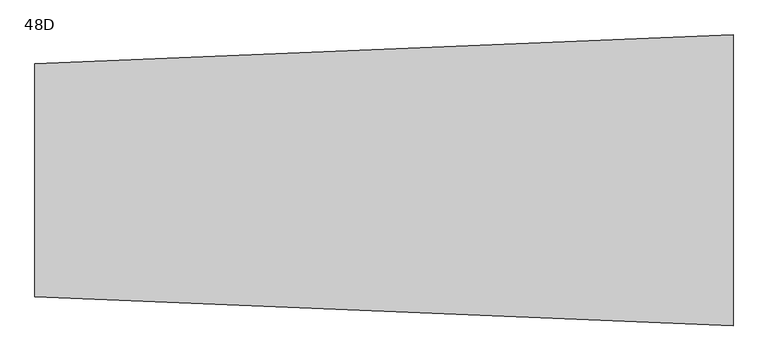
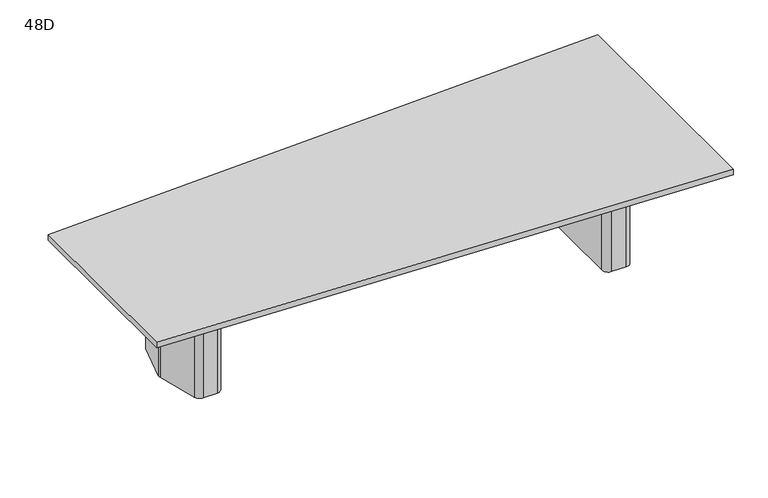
"""IFC4 building model written with IfcOpenShell, lengths in millimetres: furniture geometry, Coalesse_AM_Table_Conference_ETable2_Trapezoid_12ft_TwoBase : 48D."""

import ifcopenshell
import ifcopenshell.guid

model = None  # the IFC model being written
_history = None  # IfcOwnerHistory: only IFC2X3 demands one
_inside = {}  # id of a spatial element -> (the spatial element, [elements in it])
_under = {}  # id of a project, library or spatial element -> (it, [spatial elements below it])
_declared = {}  # id of a project -> (the project, [libraries it declares])
_typed = {}  # id of a type object -> (the type object, [elements of that type])
_made_of = {}  # id of a material, layer set ... -> (it, [elements and type objects made of it])


def new_model(schema):
    """Start an empty IFC model of exactly this schema.

    Asked for "IFC4X3", IfcOpenShell would pick the latest addendum, in which some entities
    have other attributes; the version numbers below select the first issue.
    IFC2X3 requires an IfcOwnerHistory on every rooted entity: one is made here for all.
    """
    global model, _history
    if schema == "IFC4X3":
        model = ifcopenshell.file(schema_version=(4, 3, 0, 0))
    else:
        model = ifcopenshell.file(schema=schema)
    _inside.clear()
    _under.clear()
    _declared.clear()
    _typed.clear()
    _made_of.clear()
    _history = None
    if model.schema == "IFC2X3":
        org = make("IfcOrganization", Name="unknown")
        user = make(
            "IfcPersonAndOrganization",
            ThePerson=make("IfcPerson", FamilyName="unknown"),
            TheOrganization=org,
        )
        app = make(
            "IfcApplication",
            ApplicationDeveloper=org,
            Version="unknown",
            ApplicationFullName="unknown",
            ApplicationIdentifier="unknown",
        )
        _history = make(
            "IfcOwnerHistory",
            OwningUser=user,
            OwningApplication=app,
            ChangeAction="ADDED",
            CreationDate=0,
        )
    return model


def make(cls, **values):
    """One entity of the class cls with the attributes given. An attribute that is None is left unset."""
    return model.create_entity(
        cls, **{name: value for name, value in values.items() if value is not None}
    )


def rooted(cls, **values):
    """An entity with a GlobalId (a new one), such as an element, a storey or a relation."""
    return make(cls, GlobalId=ifcopenshell.guid.new(), OwnerHistory=_history, **values)


def si_unit(unit_type, name, prefix=None):
    """IfcSIUnit, for example si_unit("LENGTHUNIT", "METRE", prefix="MILLI")."""
    return make("IfcSIUnit", UnitType=unit_type, Prefix=prefix, Name=name)


def assignment(units):
    """IfcUnitAssignment: the units of a project."""
    return None if units is None else make("IfcUnitAssignment", Units=units)


def point(xyz):
    """IfcCartesianPoint."""
    return None if xyz is None else make("IfcCartesianPoint", Coordinates=xyz)


def direction(xyz):
    """IfcDirection."""
    return None if xyz is None else make("IfcDirection", DirectionRatios=xyz)


def frame(location, z_axis=None, x_axis=None):
    """IfcAxis2Placement3D, a coordinate frame: its origin and axes. An axis left out is left unset."""
    return make(
        "IfcAxis2Placement3D",
        Location=point(location),
        Axis=direction(z_axis),
        RefDirection=direction(x_axis),
    )


def frame_2d(location, x_axis=None):
    """IfcAxis2Placement2D, a coordinate frame in the plane: its origin and x axis."""
    return make(
        "IfcAxis2Placement2D", Location=point(location), RefDirection=direction(x_axis)
    )


def origin():
    """The frame at (0, 0, 0) with its axes left unset."""
    return frame((0.0, 0.0, 0.0))


def origin_with_axes():
    """The frame at (0, 0, 0) with the z axis (0, 0, 1) and the x axis (1, 0, 0) written out."""
    return frame((0.0, 0.0, 0.0), z_axis=(0.0, 0.0, 1.0), x_axis=(1.0, 0.0, 0.0))


def place(relative_to, where):
    """IfcLocalPlacement: puts the frame where relative to a parent placement (None: the world)."""
    return make(
        "IfcLocalPlacement", PlacementRelTo=relative_to, RelativePlacement=where
    )


def context(
    kind, dimensions, precision=None, world=None, true_north=None, identifier=None
):
    """IfcGeometricRepresentationContext, for example the 3D "Model" context."""
    return make(
        "IfcGeometricRepresentationContext",
        ContextIdentifier=identifier,
        ContextType=kind,
        CoordinateSpaceDimension=dimensions,
        Precision=precision,
        WorldCoordinateSystem=world,
        TrueNorth=true_north,
    )


def project(units=None, contexts=None):
    """IfcProject with its units and contexts."""
    return rooted(
        "IfcProject",
        Name="project",
        RepresentationContexts=contexts,
        UnitsInContext=assignment(units),
    )


def spatial(cls, under=None, at=None, **own):
    """A site, building, storey or space (cls), placed at a placement, below another one or the project."""
    s = rooted(cls, ObjectPlacement=at, **own)
    if under is not None:
        _under.setdefault(under.id(), (under, []))[1].append(s)
    return s


def polyline(points):
    """IfcPolyline through the points."""
    return make("IfcPolyline", Points=[point(p) for p in points])


def circle_curve(where, radius):
    """IfcCircle in the frame where."""
    return make("IfcCircle", Position=where, Radius=radius)


def trimmed(basis, trim1, trim2, sense, master):
    """IfcTrimmedCurve: the piece of a basis curve between two trims."""
    return make(
        "IfcTrimmedCurve",
        BasisCurve=basis,
        Trim1=trim1,
        Trim2=trim2,
        SenseAgreement=sense,
        MasterRepresentation=master,
    )


def segment(curve, same_sense, transition):
    """IfcCompositeCurveSegment."""
    return make(
        "IfcCompositeCurveSegment",
        Transition=transition,
        SameSense=same_sense,
        ParentCurve=curve,
    )


def composite_curve(segments, self_intersect=None):
    """IfcCompositeCurve: segments joined end to end."""
    return make("IfcCompositeCurve", Segments=segments, SelfIntersect=self_intersect)


def outline(outer, holes=None, kind="AREA"):
    """IfcArbitraryClosedProfileDef: a profile drawn as a closed curve; with holes, ...WithVoids."""
    if holes is None:
        return make("IfcArbitraryClosedProfileDef", ProfileType=kind, OuterCurve=outer)
    return make(
        "IfcArbitraryProfileDefWithVoids",
        ProfileType=kind,
        OuterCurve=outer,
        InnerCurves=holes,
    )


def extrude(swept, where, along, depth):
    """IfcExtrudedAreaSolid: the profile swept, set in the frame where, extruded along a direction by depth."""
    return make(
        "IfcExtrudedAreaSolid",
        SweptArea=swept,
        Position=where,
        ExtrudedDirection=direction(along),
        Depth=depth,
    )


def shape(context_of_items, identifier, shape_type, items):
    """IfcShapeRepresentation: the items that make up one representation, for example the "Body"."""
    return make(
        "IfcShapeRepresentation",
        ContextOfItems=context_of_items,
        RepresentationIdentifier=identifier,
        RepresentationType=shape_type,
        Items=items,
    )


def source(mapping_origin, context_of_items, identifier, shape_type, items):
    """IfcRepresentationMap: a shape defined once, which mapped items show again and again."""
    return make(
        "IfcRepresentationMap",
        MappingOrigin=mapping_origin,
        MappedRepresentation=shape(context_of_items, identifier, shape_type, items),
    )


def transform(
    local_origin,
    x_axis=None,
    y_axis=None,
    z_axis=None,
    scale=None,
    scale2=None,
    scale3=None,
    uniform=True,
):
    """IfcCartesianTransformationOperator3D, or its non-uniform kind. x_axis, y_axis, z_axis: its Axis1, 2, 3."""
    if uniform:
        return make(
            "IfcCartesianTransformationOperator3D",
            Axis1=direction(x_axis),
            Axis2=direction(y_axis),
            LocalOrigin=point(local_origin),
            Scale=scale,
            Axis3=direction(z_axis),
        )
    return make(
        "IfcCartesianTransformationOperator3DnonUniform",
        Axis1=direction(x_axis),
        Axis2=direction(y_axis),
        LocalOrigin=point(local_origin),
        Scale=scale,
        Axis3=direction(z_axis),
        Scale2=scale2,
        Scale3=scale3,
    )


def mapped(mapping_source, mapping_target):
    """IfcMappedItem: shows the shape of a source again, moved by a transform."""
    return make(
        "IfcMappedItem", MappingSource=mapping_source, MappingTarget=mapping_target
    )


def made_of(thing, what):
    """Note that an element or type object is made of a material, layer set ...; save() writes the relation."""
    if what is not None:
        _made_of.setdefault(what.id(), (what, []))[1].append(thing)
    return thing


def element(
    cls,
    number,
    at=None,
    inside=None,
    cuts=None,
    type_object=None,
    material=None,
    context=None,
    identifier="Body",
    shape_type=None,
    held_by="IfcProductDefinitionShape",
    body=None,
    shapes=None,
    **own,
):
    """One element of the class cls, such as IfcWall. Its Tag is "e" and its number.

    at: its placement. inside: the storey or other place that contains it. cuts: it is an
    opening in that element (IfcRelVoidsElement). A single representation is given by context,
    identifier, shape_type and body (its items); several are given by shapes. held_by: the class
    of the entity that holds the representations. save() writes the other relations.
    """
    e = rooted(cls, Tag="e%d" % number, ObjectPlacement=at, **own)
    if body is not None:
        shapes = [shape(context, identifier, shape_type, body)]
    if shapes is not None:
        e.Representation = make(held_by, Representations=shapes)
    if inside is not None:
        _inside.setdefault(inside.id(), (inside, []))[1].append(e)
    if cuts is not None:
        rooted(
            "IfcRelVoidsElement", RelatingBuildingElement=cuts, RelatedOpeningElement=e
        )
    if type_object is not None:
        _typed.setdefault(type_object.id(), (type_object, []))[1].append(e)
    return made_of(e, material)


def aggregate(whole, parts):
    """IfcRelAggregates: a whole, such as a stair, and the parts it consists of."""
    return rooted("IfcRelAggregates", RelatingObject=whole, RelatedObjects=parts)


def save(model, path):
    """Write the relations noted so far, then the file.

    IfcRelAggregates (storeys below a building ...), IfcRelContainedInSpatialStructure (elements
    in a storey), IfcRelDefinesByType, IfcRelAssociatesMaterial and IfcRelDeclares: one each for
    every whole, place, type object, material and project.
    """
    for whole, parts in _under.values():
        aggregate(whole, parts)
    for where, things in _inside.values():
        rooted(
            "IfcRelContainedInSpatialStructure",
            RelatedElements=things,
            RelatingStructure=where,
        )
    for kind, things in _typed.values():
        rooted("IfcRelDefinesByType", RelatedObjects=things, RelatingType=kind)
    for what, things in _made_of.values():
        rooted("IfcRelAssociatesMaterial", RelatedObjects=things, RelatingMaterial=what)
    for by, libraries in _declared.values():
        rooted("IfcRelDeclares", RelatingContext=by, RelatedDefinitions=libraries)
    model.write(path)


def plane_surface(at):
    """IfcPlane: the flat surface through the origin of the frame at, square to its z axis."""
    return make("IfcPlane", Position=at)


def cylinder_surface(at, radius):
    """IfcCylindricalSurface: all points at the distance radius from the z axis of the frame at."""
    return make("IfcCylindricalSurface", Position=at, Radius=radius)


def revolved_surface(curve, axis_point, axis_direction):
    """IfcSurfaceOfRevolution: the curve turned about the line through axis_point along axis_direction."""
    return make(
        "IfcSurfaceOfRevolution",
        SweptCurve=make("IfcArbitraryOpenProfileDef", ProfileType="CURVE", Curve=curve),
        AxisPosition=make("IfcAxis1Placement", Location=point(axis_point), Axis=direction(axis_direction)),
    )


def advanced_brep(points, edges, surfaces, faces):
    """IfcAdvancedBrep: a solid bounded by faces that lie on surfaces and meet in shared edges.

    An edge is (start, end): straight between two places in points (the first is 0);
    or (start, end, curve); or (start, end, curve, False) where it runs against its curve.
    A face is (place in surfaces, loops), or (place, loops, False) where it looks against
    its surface's normal. A loop lists edges by number (the first is 1), with a minus sign
    where the edge is run from its end to its start. The first loop is the outer one.
    """
    corners = [point(p) for p in points]
    vertices = [make("IfcVertexPoint", VertexGeometry=c) for c in corners]
    made = []
    for start, end, *more in edges:
        made.append(
            make(
                "IfcEdgeCurve",
                EdgeStart=vertices[start],
                EdgeEnd=vertices[end],
                EdgeGeometry=more[0] if more else make("IfcPolyline", Points=[corners[start], corners[end]]),
                SameSense=more[1] if len(more) > 1 else True,
            )
        )
    hull = []
    for where, loops, *sense in faces:
        bounds = []
        for j, loop in enumerate(loops):
            ring = [make("IfcOrientedEdge", EdgeElement=made[abs(k) - 1], Orientation=k > 0) for k in loop]
            bounds.append(
                make(
                    "IfcFaceOuterBound" if j == 0 else "IfcFaceBound",
                    Bound=make("IfcEdgeLoop", EdgeList=ring),
                    Orientation=True,
                )
            )
        hull.append(make("IfcAdvancedFace", Bounds=bounds, FaceSurface=surfaces[where], SameSense=sense[0] if sense else True))
    return make("IfcAdvancedBrep", Outer=make("IfcClosedShell", CfsFaces=hull))


def furniture_48d_62940b0b(model_context):
    return source(origin(), model_context, "Body", "SolidModel", [
        extrude(outline(composite_curve([segment(polyline([(1446.2125, 101.7236478), (1446.2125, -97.2761514)]), True, "CONTINUOUS"), segment(trimmed(circle_curve(frame_2d((1408.1125, -97.2761514)), 38.1), [point((1446.2125, -97.2761514))], [point((1444.4491129, -108.7330515))], False, "CARTESIAN"), True, "CONTINUOUS"), segment(polyline([(1444.4491129, -108.7330515), (1386.0245591, -294.0319001)]), True, "CONTINUOUS"), segment(trimmed(circle_curve(frame_2d((1349.6879462, -282.575)), 38.1), [point((1386.0245591, -294.0319001))], [point((1349.6879462, -320.675))], False, "CARTESIAN"), True, "CONTINUOUS"), segment(polyline([(1349.6879462, -320.675), (1282.7, -320.675)]), True, "CONTINUOUS"), segment(trimmed(circle_curve(frame_2d((1282.7, -282.575)), 38.1), [point((1282.7, -320.675))], [point((1244.6, -282.575))], False, "CARTESIAN"), True, "CONTINUOUS"), segment(polyline([(1244.6, -282.575), (1244.6, 282.575)]), True, "CONTINUOUS"), segment(trimmed(circle_curve(frame_2d((1282.7, 282.575)), 38.1), [point((1244.6, 282.575))], [point((1282.7, 320.675))], False, "CARTESIAN"), True, "CONTINUOUS"), segment(polyline([(1282.7, 320.675), (1353.4373998, 320.675)]), True, "CONTINUOUS"), segment(trimmed(circle_curve(frame_2d((1353.4373998, 282.575)), 38.1), [point((1353.4373998, 320.675))], [point((1389.9072049, 293.6005756))], False, "CARTESIAN"), True, "CONTINUOUS"), segment(polyline([(1389.9072049, 293.6005756), (1444.5823051, 112.7492234)]), True, "CONTINUOUS"), segment(trimmed(circle_curve(frame_2d((1408.1125, 101.7236478)), 38.1), [point((1444.5823051, 112.7492234))], [point((1446.2125, 101.7236478))], False, "CARTESIAN"), True, "CONTINUOUS")], self_intersect=False)), origin_with_axes(), (0.0, 0.0, 1.0), 3.175),
        extrude(outline(composite_curve([segment(polyline([(1266.825, 381.0), (1354.9721663, 381.0)]), True, "CONTINUOUS"), segment(trimmed(circle_curve(frame_2d((1354.9721663, 339.725)), 41.275), [point((1354.9721663, 381.0))], [point((1394.3368303, 352.1366418))], False, "CARTESIAN"), True, "CONTINUOUS"), segment(polyline([(1394.3368303, 352.1366418), (1501.4518053, 12.4116418)]), True, "CONTINUOUS"), segment(trimmed(circle_curve(frame_2d((1462.0871413, 0.0)), 41.275), [point((1501.4518053, 12.4116418))], [point((1501.4518053, -12.4116418))], False, "CARTESIAN"), True, "CONTINUOUS"), segment(polyline([(1501.4518053, -12.4116418), (1394.3368303, -352.1366418)]), True, "CONTINUOUS"), segment(trimmed(circle_curve(frame_2d((1354.9721663, -339.725)), 41.275), [point((1394.3368303, -352.1366418))], [point((1354.9721663, -381.0))], False, "CARTESIAN"), True, "CONTINUOUS"), segment(polyline([(1354.9721663, -381.0), (1260.475, -381.0)]), True, "CONTINUOUS"), segment(trimmed(circle_curve(frame_2d((1260.475, -339.725)), 41.275), [point((1260.475, -381.0))], [point((1219.2, -339.725))], False, "CARTESIAN"), True, "CONTINUOUS"), segment(polyline([(1219.2, -339.725), (1219.2, 333.375)]), True, "CONTINUOUS"), segment(trimmed(circle_curve(frame_2d((1266.825, 333.375)), 47.625), [point((1219.2, 333.375))], [point((1266.825, 381.0))], False, "CARTESIAN"), True, "CONTINUOUS")], self_intersect=False), holes=[composite_curve([segment(trimmed(circle_curve(frame_2d((1282.7, -282.575)), 25.4), [point((1257.3, -282.575))], [point((1282.7, -307.975))], True, "CARTESIAN"), True, "CONTINUOUS"), segment(polyline([(1282.7, -307.975), (1349.6879462, -307.975)]), True, "CONTINUOUS"), segment(trimmed(circle_curve(frame_2d((1349.6879462, -282.575)), 25.4), [point((1349.6879462, -307.975))], [point((1373.9123548, -290.2129334))], True, "CARTESIAN"), True, "CONTINUOUS"), segment(polyline([(1373.9123548, -290.2129334), (1432.3369086, -104.9140848)]), True, "CONTINUOUS"), segment(trimmed(circle_curve(frame_2d((1408.1125, -97.2761514)), 25.4), [point((1432.3369086, -104.9140848))], [point((1433.5125, -97.2761514))], True, "CARTESIAN"), True, "CONTINUOUS"), segment(polyline([(1433.5125, -97.2761514), (1433.5125, 101.7236478)]), True, "CONTINUOUS"), segment(trimmed(circle_curve(frame_2d((1408.1125, 101.7236478)), 25.4), [point((1433.5125, 101.7236478))], [point((1432.4257034, 109.0740316))], True, "CARTESIAN"), True, "CONTINUOUS"), segment(polyline([(1432.4257034, 109.0740316), (1377.7506032, 289.9253837)]), True, "CONTINUOUS"), segment(trimmed(circle_curve(frame_2d((1353.4373998, 282.575)), 25.4), [point((1377.7506032, 289.9253837))], [point((1353.4373998, 307.975))], True, "CARTESIAN"), True, "CONTINUOUS"), segment(polyline([(1353.4373998, 307.975), (1282.7, 307.975)]), True, "CONTINUOUS"), segment(trimmed(circle_curve(frame_2d((1282.7, 282.575)), 25.4), [point((1282.7, 307.975))], [point((1257.3, 282.575))], True, "CARTESIAN"), True, "CONTINUOUS"), segment(polyline([(1257.3, 282.575), (1257.3, -282.575)]), True, "CONTINUOUS")], self_intersect=False)]), frame((0.0, 0.0, 3.175), z_axis=(0.0, 0.0, 1.0), x_axis=(1.0, 0.0, 0.0)), (0.0, 0.0, 1.0), 695.325),
        advanced_brep(
        [(-1390.068298, 274.2093613, 698.5), (-1460.6941401, 10.6333708, 698.5), (-1460.6941401, -10.6333708, 698.5), (-1390.068298, -274.2093613, 698.5), (-1350.2016746, -304.8, 698.5), (-1261.26875, -304.8, 698.5), (-1219.99375, -263.525, 698.5), (-1219.99375, 263.525, 698.5), (-1261.26875, 304.8, 698.5), (-1350.2016746, 304.8, 698.5), (-1258.09375, -206.375, 698.5), (-1283.49375, -231.775, 698.5), (-1342.5045922, -231.775, 698.5), (-1367.039088, -212.9490792, 698.5), (-1405.73125, -68.54974, 698.5), (-1405.73125, 68.54974, 698.5), (-1367.039088, 212.9490792, 698.5), (-1342.5045922, 231.775, 698.5), (-1283.49375, 231.775, 698.5), (-1258.09375, 206.375, 698.5), (-1390.068298, 274.2093613, 3.175), (-1350.2016746, 304.8, 3.175), (-1261.26875, 304.8, 3.175), (-1219.99375, 263.525, 3.175), (-1219.99375, -263.525, 3.175), (-1261.26875, -304.8, 3.175), (-1350.2016746, -304.8, 3.175), (-1390.068298, -274.2093613, 3.175), (-1460.6941401, -10.6333708, 3.175), (-1460.6941401, 10.6333708, 3.175), (-1379.3063359, 216.2361187, 3.175), (-1418.43125, 70.2217466, 3.175), (-1418.43125, -70.2217466, 3.175), (-1379.3063359, -216.2361187, 3.175), (-1342.5045922, -244.475, 3.175), (-1283.49375, -244.475, 3.175), (-1245.39375, -206.375, 3.175), (-1245.39375, 206.375, 3.175), (-1283.49375, 244.475, 3.175), (-1342.5045922, 244.475, 3.175), (-1258.09375, -206.375, 3.175), (-1283.49375, -231.775, 3.175), (-1342.5045922, -231.775, 3.175), (-1367.039088, -212.9490792, 3.175), (-1405.73125, -68.54974, 3.175), (-1405.73125, 68.54974, 3.175), (-1367.039088, 212.9490792, 3.175), (-1342.5045922, 231.775, 3.175), (-1283.49375, 231.775, 3.175), (-1258.09375, 206.375, 3.175), (-1379.3063359, 216.2361187, 0.0), (-1342.5045922, 244.475, 0.0), (-1283.49375, 244.475, 0.0), (-1245.39375, 206.375, 0.0), (-1245.39375, -206.375, 0.0), (-1283.49375, -244.475, 0.0), (-1342.5045922, -244.475, 0.0), (-1379.3063359, -216.2361187, 0.0), (-1418.43125, -70.2217466, 0.0), (-1418.43125, 70.2217466, 0.0)],
        [
            (0, 1),
            (1, 2, circle_curve(frame((-1421.0103479, 0.0, 698.5), z_axis=(0.0, 0.0, 1.0), x_axis=(1.0, 0.0, 0.0)), 41.0837187)),
            (2, 3),
            (3, 4, circle_curve(frame((-1350.2016746, -263.5270004, 698.5), z_axis=(0.0, 0.0, 1.0), x_axis=(1.0, 0.0, 0.0)), 41.2729996)),
            (4, 5),
            (5, 6, circle_curve(frame((-1261.26875, -263.525, 698.5), z_axis=(0.0, 0.0, 1.0), x_axis=(1.0, 0.0, 0.0)), 41.275)),
            (6, 7),
            (7, 8, circle_curve(frame((-1261.26875, 263.525, 698.5), z_axis=(0.0, 0.0, 1.0), x_axis=(1.0, 0.0, 0.0)), 41.275)),
            (8, 9),
            (9, 0, circle_curve(frame((-1350.2016746, 263.5270004, 698.5), z_axis=(0.0, 0.0, 1.0), x_axis=(1.0, 0.0, 0.0)), 41.2729996)),
            (10, 11, circle_curve(frame((-1283.49375, -206.375, 698.5), z_axis=(0.0, 0.0, -1.0), x_axis=(1.0, 0.0, 0.0)), 25.4)),
            (11, 12),
            (12, 13, circle_curve(frame((-1342.5045922, -206.375, 698.5), z_axis=(0.0, 0.0, -1.0), x_axis=(1.0, 0.0, 0.0)), 25.4)),
            (13, 14),
            (14, 15),
            (15, 16),
            (16, 17, circle_curve(frame((-1342.5045922, 206.375, 698.5), z_axis=(0.0, 0.0, -1.0), x_axis=(1.0, 0.0, 0.0)), 25.4)),
            (17, 18),
            (18, 19, circle_curve(frame((-1283.49375, 206.375, 698.5), z_axis=(0.0, 0.0, -1.0), x_axis=(1.0, 0.0, 0.0)), 25.4)),
            (19, 10),
            (20, 21, circle_curve(frame((-1350.2016746, 263.5270004, 3.175), z_axis=(0.0, 0.0, -1.0), x_axis=(1.0, 0.0, 0.0)), 41.2729996)),
            (21, 22),
            (22, 23, circle_curve(frame((-1261.26875, 263.525, 3.175), z_axis=(0.0, 0.0, -1.0), x_axis=(1.0, 0.0, 0.0)), 41.275)),
            (23, 24),
            (24, 25, circle_curve(frame((-1261.26875, -263.525, 3.175), z_axis=(0.0, 0.0, -1.0), x_axis=(1.0, 0.0, 0.0)), 41.275)),
            (25, 26),
            (26, 27, circle_curve(frame((-1350.2016746, -263.5270004, 3.175), z_axis=(0.0, 0.0, -1.0), x_axis=(1.0, 0.0, 0.0)), 41.2729996)),
            (27, 28),
            (28, 29, circle_curve(frame((-1421.0103479, 0.0, 3.175), z_axis=(0.0, 0.0, -1.0), x_axis=(1.0, 0.0, 0.0)), 41.0837187)),
            (29, 20),
            (30, 31),
            (31, 32),
            (32, 33),
            (33, 34, circle_curve(frame((-1342.5045922, -206.375, 3.175), z_axis=(0.0, 0.0, 1.0), x_axis=(1.0, 0.0, 0.0)), 38.1)),
            (34, 35),
            (35, 36, circle_curve(frame((-1283.49375, -206.375, 3.175), z_axis=(0.0, 0.0, 1.0), x_axis=(1.0, 0.0, 0.0)), 38.1)),
            (36, 37),
            (37, 38, circle_curve(frame((-1283.49375, 206.375, 3.175), z_axis=(0.0, 0.0, 1.0), x_axis=(1.0, 0.0, 0.0)), 38.1)),
            (38, 39),
            (39, 30, circle_curve(frame((-1342.5045922, 206.375, 3.175), z_axis=(0.0, 0.0, 1.0), x_axis=(1.0, 0.0, 0.0)), 38.1)),
            (0, 20),
            (29, 1),
            (28, 2),
            (27, 3),
            (26, 4),
            (25, 5),
            (24, 6),
            (23, 7),
            (22, 8),
            (21, 9),
            (10, 40),
            (40, 41, circle_curve(frame((-1283.49375, -206.375, 3.175), z_axis=(0.0, 0.0, -1.0), x_axis=(1.0, 0.0, 0.0)), 25.4)),
            (41, 11),
            (41, 42),
            (42, 12),
            (42, 43, circle_curve(frame((-1342.5045922, -206.375, 3.175), z_axis=(0.0, 0.0, -1.0), x_axis=(1.0, 0.0, 0.0)), 25.4)),
            (43, 13),
            (43, 44),
            (44, 14),
            (44, 45),
            (45, 15),
            (45, 46),
            (46, 16),
            (46, 47, circle_curve(frame((-1342.5045922, 206.375, 3.175), z_axis=(0.0, 0.0, -1.0), x_axis=(1.0, 0.0, 0.0)), 25.4)),
            (47, 17),
            (47, 48),
            (48, 18),
            (48, 49, circle_curve(frame((-1283.49375, 206.375, 3.175), z_axis=(0.0, 0.0, -1.0), x_axis=(1.0, 0.0, 0.0)), 25.4)),
            (49, 19),
            (49, 40),
            (50, 51, circle_curve(frame((-1342.5045922, 206.375, 0.0), z_axis=(0.0, 0.0, -1.0), x_axis=(1.0, 0.0, 0.0)), 38.1)),
            (51, 52),
            (52, 53, circle_curve(frame((-1283.49375, 206.375, 0.0), z_axis=(0.0, 0.0, -1.0), x_axis=(1.0, 0.0, 0.0)), 38.1)),
            (53, 54),
            (54, 55, circle_curve(frame((-1283.49375, -206.375, 0.0), z_axis=(0.0, 0.0, -1.0), x_axis=(1.0, 0.0, 0.0)), 38.1)),
            (55, 56),
            (56, 57, circle_curve(frame((-1342.5045922, -206.375, 0.0), z_axis=(0.0, 0.0, -1.0), x_axis=(1.0, 0.0, 0.0)), 38.1)),
            (57, 58),
            (58, 59),
            (59, 50),
            (59, 31),
            (30, 50),
            (58, 32),
            (57, 33),
            (56, 34),
            (55, 35),
            (54, 36),
            (53, 37),
            (52, 38),
            (51, 39),
        ],
        [
            plane_surface(frame((-1460.6811775, 10.6817473, 698.5), z_axis=(0.0, 0.0, 1.0000000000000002), x_axis=(-0.25882201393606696, -0.9659250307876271, 0.0))),
            plane_surface(frame((-1460.6811775, 10.6817473, 3.175), z_axis=(0.0, 0.0, -1.0000000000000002), x_axis=(0.25882201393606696, 0.9659250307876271, 0.0))),
            plane_surface(frame((-1390.068298, 274.2093613, 698.5), z_axis=(-0.9659250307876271, 0.25882201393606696, 0.0), x_axis=(0.0, 0.0, -1.0))),
            cylinder_surface(frame((-1421.0103479, 0.0, 3.175), z_axis=(0.0, 0.0, 1.0), x_axis=(1.0, 0.0, 0.0)), 41.0837187),
            plane_surface(frame((-1460.6941401, -10.6333708, 698.5), z_axis=(-0.9659250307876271, -0.2588220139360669, 0.0), x_axis=(0.0, 0.0, -1.0))),
            cylinder_surface(frame((-1350.2016746, -263.5270004, 3.175), z_axis=(0.0, 0.0, 1.0), x_axis=(1.0, 0.0, 0.0)), 41.2729996),
            plane_surface(frame((-1350.2016746, -304.8, 698.5), z_axis=(0.0, -1.0, 0.0), x_axis=(0.0, 0.0, -1.0))),
            cylinder_surface(frame((-1261.26875, -263.525, 3.175), z_axis=(0.0, 0.0, 1.0), x_axis=(1.0, 0.0, 0.0)), 41.275),
            plane_surface(frame((-1219.99375, -263.525, 698.5), z_axis=(1.0, 0.0, 0.0), x_axis=(0.0, 0.0, -1.0))),
            cylinder_surface(frame((-1261.26875, 263.525, 3.175), z_axis=(0.0, 0.0, 1.0), x_axis=(1.0, 0.0, 0.0)), 41.275),
            plane_surface(frame((-1261.26875, 304.8, 698.5), z_axis=(0.0, 1.0, 0.0), x_axis=(0.0, 0.0, -1.0))),
            cylinder_surface(frame((-1350.2016746, 263.5270004, 3.175), z_axis=(0.0, 0.0, 1.0), x_axis=(1.0, 0.0, 0.0)), 41.2729996),
            revolved_surface(polyline([(-1258.09375, -206.375, 3.175), (-1258.09375, -206.375, 698.5)]), (-1283.49375, -206.375, 0.0), (0.0, 0.0, -1.0)),
            plane_surface(frame((-1283.49375, -231.775, 698.5), z_axis=(0.0, 1.0, 0.0), x_axis=(0.0, 0.0, -1.0))),
            revolved_surface(polyline([(-1317.1045921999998, -206.375, 3.175), (-1317.1045921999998, -206.375, 698.5)]), (-1342.5045922, -206.375, 0.0), (0.0, 0.0, -1.0)),
            plane_surface(frame((-1367.039088, -212.9490792, 698.5), z_axis=(0.9659250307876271, 0.2588220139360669, 0.0), x_axis=(0.0, 0.0, -1.0))),
            plane_surface(frame((-1405.73125, -68.54974, 698.5), z_axis=(1.0, 0.0, 0.0), x_axis=(0.0, 0.0, -1.0))),
            plane_surface(frame((-1405.73125, 68.54974, 698.5), z_axis=(0.9659250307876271, -0.25882201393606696, 0.0), x_axis=(0.0, 0.0, -1.0))),
            revolved_surface(polyline([(-1317.1045921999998, 206.375, 3.175), (-1317.1045921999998, 206.375, 698.5)]), (-1342.5045922, 206.375, 0.0), (0.0, 0.0, -1.0)),
            plane_surface(frame((-1342.5045922, 231.775, 698.5), z_axis=(0.0, -1.0, 0.0), x_axis=(0.0, 0.0, -1.0))),
            revolved_surface(polyline([(-1258.09375, 206.375, 3.175), (-1258.09375, 206.375, 698.5)]), (-1283.49375, 206.375, 0.0), (0.0, 0.0, -1.0)),
            plane_surface(frame((-1258.09375, 206.375, 698.5), z_axis=(-1.0, 0.0, 0.0), x_axis=(0.0, 0.0, -1.0))),
            plane_surface(frame((-1417.9984979, 71.8367796, 3.175), z_axis=(0.0, 0.0, 1.0), x_axis=(-0.25882201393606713, -0.965925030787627, 0.0))),
            plane_surface(frame((-1417.9984979, 71.8367796, 0.0), z_axis=(0.0, 0.0, -1.0), x_axis=(0.25882201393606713, 0.965925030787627, 0.0))),
            plane_surface(frame((-1379.3063359, 216.2361187, 3.175), z_axis=(-0.965925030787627, 0.25882201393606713, 0.0), x_axis=(0.0, 0.0, -1.0))),
            plane_surface(frame((-1418.43125, 70.2217466, 3.175), z_axis=(-1.0, 0.0, 0.0), x_axis=(0.0, 0.0, -1.0))),
            plane_surface(frame((-1418.43125, -70.2217466, 3.175), z_axis=(-0.9659250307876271, -0.2588220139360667, 0.0), x_axis=(0.0, 0.0, -1.0))),
            cylinder_surface(frame((-1342.5045922, -206.375, 0.0), z_axis=(0.0, 0.0, 1.0), x_axis=(1.0, 0.0, 0.0)), 38.1),
            plane_surface(frame((-1342.5045922, -244.475, 3.175), z_axis=(0.0, -1.0, 0.0), x_axis=(0.0, 0.0, -1.0))),
            cylinder_surface(frame((-1283.49375, -206.375, 0.0), z_axis=(0.0, 0.0, 1.0), x_axis=(1.0, 0.0, 0.0)), 38.1),
            plane_surface(frame((-1245.39375, -206.375, 3.175), z_axis=(1.0, 0.0, 0.0), x_axis=(0.0, 0.0, -1.0))),
            cylinder_surface(frame((-1283.49375, 206.375, 0.0), z_axis=(0.0, 0.0, 1.0), x_axis=(1.0, 0.0, 0.0)), 38.1),
            plane_surface(frame((-1283.49375, 244.475, 3.175), z_axis=(0.0, 1.0, 0.0), x_axis=(0.0, 0.0, -1.0))),
            cylinder_surface(frame((-1342.5045922, 206.375, 0.0), z_axis=(0.0, 0.0, 1.0), x_axis=(1.0, 0.0, 0.0)), 38.1),
        ],
        [
            (0, [[1, 2, 3, 4, 5, 6, 7, 8, 9, 10], [11, 12, 13, 14, 15, 16, 17, 18, 19, 20]]),
            (1, [[21, 22, 23, 24, 25, 26, 27, 28, 29, 30], [31, 32, 33, 34, 35, 36, 37, 38, 39, 40]]),
            (2, [[-1, 41, -30, 42]]),
            (3, [[-2, -42, -29, 43]]),
            (4, [[-3, -43, -28, 44]]),
            (5, [[-4, -44, -27, 45]]),
            (6, [[-5, -45, -26, 46]]),
            (7, [[-6, -46, -25, 47]]),
            (8, [[-7, -47, -24, 48]]),
            (9, [[-8, -48, -23, 49]]),
            (10, [[-9, -49, -22, 50]]),
            (11, [[-10, -50, -21, -41]]),
            (12, [[-11, 51, 52, 53]]),
            (13, [[-12, -53, 54, 55]]),
            (14, [[-13, -55, 56, 57]]),
            (15, [[-14, -57, 58, 59]]),
            (16, [[-15, -59, 60, 61]]),
            (17, [[-16, -61, 62, 63]]),
            (18, [[-17, -63, 64, 65]]),
            (19, [[-18, -65, 66, 67]]),
            (20, [[-19, -67, 68, 69]]),
            (21, [[-20, -69, 70, -51]]),
            (22, [[-52, -70, -68, -66, -64, -62, -60, -58, -56, -54]]),
            (23, [[71, 72, 73, 74, 75, 76, 77, 78, 79, 80]]),
            (24, [[-80, 81, -31, 82]]),
            (25, [[-79, 83, -32, -81]]),
            (26, [[-78, 84, -33, -83]]),
            (27, [[-77, 85, -34, -84]]),
            (28, [[-76, 86, -35, -85]]),
            (29, [[-75, 87, -36, -86]]),
            (30, [[-74, 88, -37, -87]]),
            (31, [[-73, 89, -38, -88]]),
            (32, [[-72, 90, -39, -89]]),
            (33, [[-71, -82, -40, -90]]),
        ],
    ),
        extrude(outline(polyline([(96.8375, 698.5), (103.1875, 698.5), (103.1875, 476.25), (-103.1875, 476.25), (-103.1875, 698.5), (-96.8375, 698.5), (-96.8375, 482.6), (96.8375, 482.6), (96.8375, 698.5)])), frame((-1219.99375, 0.0, 0.0), z_axis=(1.0, 0.0, 0.0), x_axis=(0.0, 1.0, 0.0)), (0.0, 0.0, 1.0), 2439.19375),
        extrude(outline(polyline([(1828.8, 762.0), (1828.8, -762.0), (-1828.8, -609.6), (-1828.8, 609.6), (1828.8, 762.0)])), frame((0.0, 0.0, 698.5), z_axis=(0.0, 0.0, 1.0), x_axis=(1.0, 0.0, 0.0)), (0.0, 0.0, 1.0), 38.1),
    ])


if __name__ == "__main__":
    model = new_model("IFC4")
    model_context = context("Model", 3, world=origin())
    ifc_project = project(units=[si_unit("LENGTHUNIT", "METRE", prefix="MILLI")], contexts=[model_context])
    site = spatial("IfcSite", under=ifc_project)
    building = spatial("IfcBuilding", under=site)
    placement = place(None, origin())
    furniture_48d_shape = furniture_48d_62940b0b(model_context)
    element("IfcFurniture", 1, ObjectType="Coalesse_AM_Table_Conference_ETable2_Trapezoid_12ft_TwoBase : 48D", at=placement, inside=building, context=model_context, shape_type="MappedRepresentation", body=[
        mapped(furniture_48d_shape, transform((0.0, 0.0, 0.0), x_axis=(1.0, 0.0, 0.0), y_axis=(0.0, 1.0, 0.0), z_axis=(0.0, 0.0, 1.0))),
    ])
    save(model, "model.ifc")
